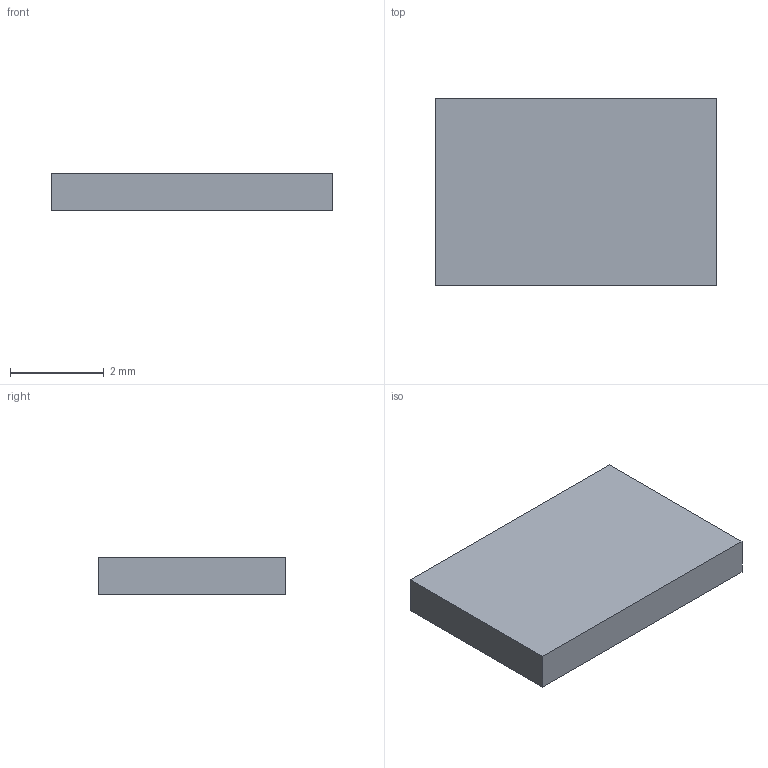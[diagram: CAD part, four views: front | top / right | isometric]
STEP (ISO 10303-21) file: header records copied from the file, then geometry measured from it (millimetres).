
FILE_DESCRIPTION(('Open CASCADE Model'),'2;1');
FILE_NAME('Open CASCADE Shape Model','2026-11-21T14:29:11',('Author'),( 'Open CASCADE'),'Open CASCADE STEP processor 7.9','Open CASCADE 7.9' ,'Unknown');
FILE_SCHEMA(('AUTOMOTIVE_DESIGN { 1 0 10303 214 1 1 1 1 }'));
Length unit declared in the file: millimetre
Products named in the file (2): TPS25730D_REF; d43bf76a-e5e1-11f1-bb71-8157894c7c6c
Assembly tree (1 placements, depth 2):
  TPS25730D_REF
    d43bf76a-e5e1-11f1-bb71-8157894c7c6c
Bounding box: 6 x 4 x 0.8 mm (x, y, z)
Volume: 19.2 mm3; surface area: 64 mm2
Topology: 1 solids, 1 shells, 6 faces, 12 edges, 8 vertices
Faces by surface type: plane 6
Entity records: 349 total; most frequent: CARTESIAN_POINT 52, DIRECTION 52, LINE 36, VECTOR 36, ORIENTED_EDGE 24, PCURVE 24, DEFINITIONAL_REPRESENTATION 24, EDGE_CURVE 12
